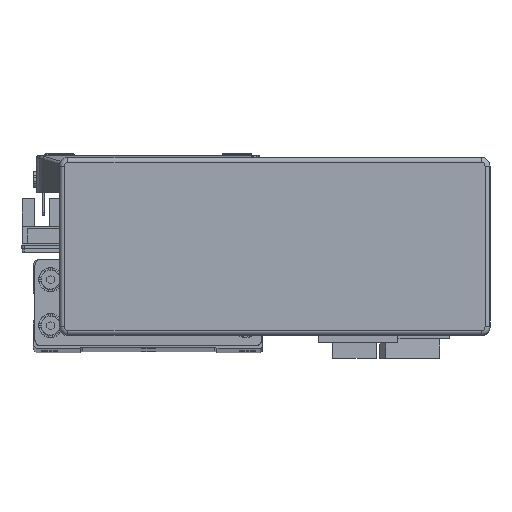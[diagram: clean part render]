
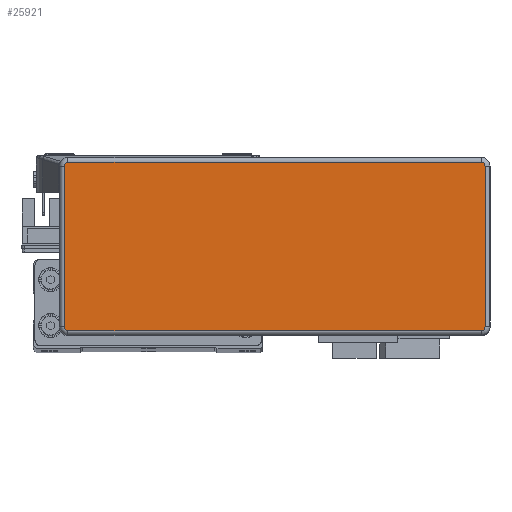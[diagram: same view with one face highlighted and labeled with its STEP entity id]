
A CAD part, top view. The second image highlights one B-rep face of the part: STEP entity #25921.
In plain terms, the highlighted planar face has unit normal (0, 0, 1) as drawn and (0, 0, -1) by its records, which use the part's own axes.
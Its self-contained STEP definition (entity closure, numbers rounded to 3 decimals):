
#1676 = EDGE_CURVE ( 'NONE', #4887, #4904, #19477, .T. ) ;
#1707 = EDGE_CURVE ( 'NONE', #4923, #4905, #19551, .T. ) ;
#1709 = EDGE_CURVE ( 'NONE', #4898, #4929, #19534, .T. ) ;
#1721 = EDGE_CURVE ( 'NONE', #4904, #4915, #19548, .T. ) ;
#1723 = EDGE_CURVE ( 'NONE', #4915, #4923, #19541, .T. ) ;
#1742 = EDGE_CURVE ( 'NONE', #4896, #4898, #19573, .T. ) ;
#1758 = EDGE_CURVE ( 'NONE', #4905, #4896, #19580, .T. ) ;
#1784 = EDGE_CURVE ( 'NONE', #4929, #4887, #19609, .T. ) ;
#3479 = EDGE_LOOP ( 'NONE', ( #11117, #11091, #11123, #11142, #11121, #11108, #11093, #11155 ) ) ;
#4887 = VERTEX_POINT ( 'NONE', #29046 ) ;
#4896 = VERTEX_POINT ( 'NONE', #29069 ) ;
#4898 = VERTEX_POINT ( 'NONE', #29034 ) ;
#4904 = VERTEX_POINT ( 'NONE', #29033 ) ;
#4905 = VERTEX_POINT ( 'NONE', #29060 ) ;
#4915 = VERTEX_POINT ( 'NONE', #29078 ) ;
#4923 = VERTEX_POINT ( 'NONE', #29076 ) ;
#4929 = VERTEX_POINT ( 'NONE', #29086 ) ;
#11091 = ORIENTED_EDGE ( 'NONE', *, *, #1758, .T. ) ;
#11093 = ORIENTED_EDGE ( 'NONE', *, *, #1721, .T. ) ;
#11108 = ORIENTED_EDGE ( 'NONE', *, *, #1676, .T. ) ;
#11117 = ORIENTED_EDGE ( 'NONE', *, *, #1707, .T. ) ;
#11121 = ORIENTED_EDGE ( 'NONE', *, *, #1784, .T. ) ;
#11123 = ORIENTED_EDGE ( 'NONE', *, *, #1742, .T. ) ;
#11142 = ORIENTED_EDGE ( 'NONE', *, *, #1709, .T. ) ;
#11155 = ORIENTED_EDGE ( 'NONE', *, *, #1723, .T. ) ;
#17839 = AXIS2_PLACEMENT_3D ( 'NONE', #45578, #45581, #45612 ) ;
#17880 = AXIS2_PLACEMENT_3D ( 'NONE', #45719, #45707, #45720 ) ;
#17918 = AXIS2_PLACEMENT_3D ( 'NONE', #45836, #45829, #45820 ) ;
#17929 = AXIS2_PLACEMENT_3D ( 'NONE', #45706, #45713, #45714 ) ;
#19477 = CIRCLE ( 'NONE', #17839, 1.3 ) ;
#19520 = VECTOR ( 'NONE', #45712, 1000. ) ;
#19534 = CIRCLE ( 'NONE', #17880, 1.3 ) ;
#19536 = VECTOR ( 'NONE', #45685, 1000. ) ;
#19541 = CIRCLE ( 'NONE', #17929, 1.3 ) ;
#19548 = LINE ( 'NONE', #45723, #19520 ) ;
#19551 = LINE ( 'NONE', #45688, #19536 ) ;
#19554 = VECTOR ( 'NONE', #45803, 1000. ) ;
#19573 = LINE ( 'NONE', #45798, #19554 ) ;
#19580 = CIRCLE ( 'NONE', #17918, 1.3 ) ;
#19609 = LINE ( 'NONE', #45867, #19634 ) ;
#19634 = VECTOR ( 'NONE', #45875, 1000. ) ;
#25921 = ADVANCED_FACE ( 'NONE', ( #43381 ), #43703, .F. ) ;
#29033 = CARTESIAN_POINT ( 'NONE',  ( -71.995, 29.295, -32.2 ) ) ;
#29034 = CARTESIAN_POINT ( 'NONE',  ( -71.995, -29.295, -32.2 ) ) ;
#29046 = CARTESIAN_POINT ( 'NONE',  ( -73.295, 27.995, -32.2 ) ) ;
#29060 = CARTESIAN_POINT ( 'NONE',  ( 73.295, -27.995, -32.2 ) ) ;
#29069 = CARTESIAN_POINT ( 'NONE',  ( 71.995, -29.295, -32.2 ) ) ;
#29076 = CARTESIAN_POINT ( 'NONE',  ( 73.295, 27.995, -32.2 ) ) ;
#29078 = CARTESIAN_POINT ( 'NONE',  ( 71.995, 29.295, -32.2 ) ) ;
#29086 = CARTESIAN_POINT ( 'NONE',  ( -73.295, -27.995, -32.2 ) ) ;
#40197 = AXIS2_PLACEMENT_3D ( 'NONE', #43709, #43753, #43743 ) ;
#43381 = FACE_OUTER_BOUND ( 'NONE', #3479, .T. ) ;
#43703 = PLANE ( 'NONE',  #40197 ) ;
#43709 = CARTESIAN_POINT ( 'NONE',  ( 71.995, -27.995, -32.2 ) ) ;
#43743 = DIRECTION ( 'NONE',  ( 1., 0., 0. ) ) ;
#43753 = DIRECTION ( 'NONE',  ( 0., 0., 1. ) ) ;
#45578 = CARTESIAN_POINT ( 'NONE',  ( -71.995, 27.995, -32.2 ) ) ;
#45581 = DIRECTION ( 'NONE',  ( 0., 0., -1. ) ) ;
#45612 = DIRECTION ( 'NONE',  ( 1., 0., 0. ) ) ;
#45685 = DIRECTION ( 'NONE',  ( 0., -1., 0. ) ) ;
#45688 = CARTESIAN_POINT ( 'NONE',  ( 73.295, -27.995, -32.2 ) ) ;
#45706 = CARTESIAN_POINT ( 'NONE',  ( 71.995, 27.995, -32.2 ) ) ;
#45707 = DIRECTION ( 'NONE',  ( 0., 0., -1. ) ) ;
#45712 = DIRECTION ( 'NONE',  ( 1., 0., 0. ) ) ;
#45713 = DIRECTION ( 'NONE',  ( 0., 0., -1. ) ) ;
#45714 = DIRECTION ( 'NONE',  ( 1., 0., 0. ) ) ;
#45719 = CARTESIAN_POINT ( 'NONE',  ( -71.995, -27.995, -32.2 ) ) ;
#45720 = DIRECTION ( 'NONE',  ( 1., 0., 0. ) ) ;
#45723 = CARTESIAN_POINT ( 'NONE',  ( 71.995, 29.295, -32.2 ) ) ;
#45798 = CARTESIAN_POINT ( 'NONE',  ( 71.995, -29.295, -32.2 ) ) ;
#45803 = DIRECTION ( 'NONE',  ( -1., 0., 0. ) ) ;
#45820 = DIRECTION ( 'NONE',  ( 1., 0., 0. ) ) ;
#45829 = DIRECTION ( 'NONE',  ( 0., 0., -1. ) ) ;
#45836 = CARTESIAN_POINT ( 'NONE',  ( 71.995, -27.995, -32.2 ) ) ;
#45867 = CARTESIAN_POINT ( 'NONE',  ( -73.295, -27.995, -32.2 ) ) ;
#45875 = DIRECTION ( 'NONE',  ( 0., 1., 0. ) ) ;
